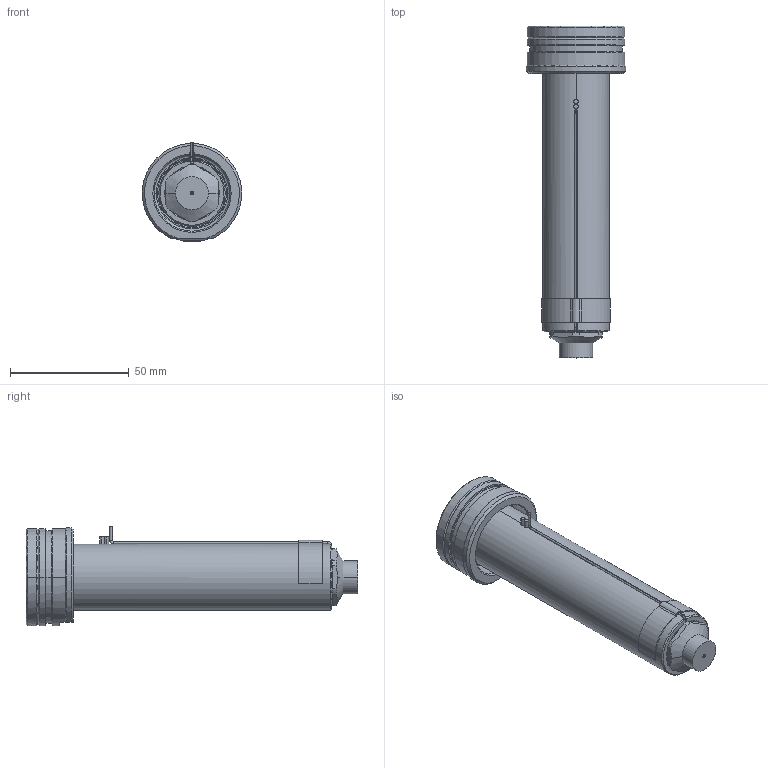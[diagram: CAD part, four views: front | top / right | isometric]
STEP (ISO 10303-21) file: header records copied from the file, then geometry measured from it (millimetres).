
FILE_DESCRIPTION((''),'2;1');
FILE_NAME('EO10_PG-FB_WR_120_SW','2024-02-19T11:35:25',('sundharh'),(''),'CREO PARAMETRIC BY PTC INC, 2023154','CREO PARAMETRIC BY PTC INC, 2023154','');
FILE_SCHEMA(('CONFIG_CONTROL_DESIGN'));
Length unit declared in the file: millimetre
Products named in the file (1): EO10_PG-FB_WR_120_SW
Bounding box: 41.85 x 140 x 42.02 mm (x, y, z)
Volume: 83828.3 mm3; surface area: 23941.1 mm2
Topology: 1 solids, 1 shells, 201 faces, 544 edges, 338 vertices
Faces by surface type: cylinder 80, plane 59, cone 39, torus 17, bspline 3, sphere 3
Entity records: 7400 total; most frequent: CARTESIAN_POINT 2232, DIRECTION 1128, ORIENTED_EDGE 1080, EDGE_CURVE 540, AXIS2_PLACEMENT_3D 470, VERTEX_POINT 338, CIRCLE 272, EDGE_LOOP 218
